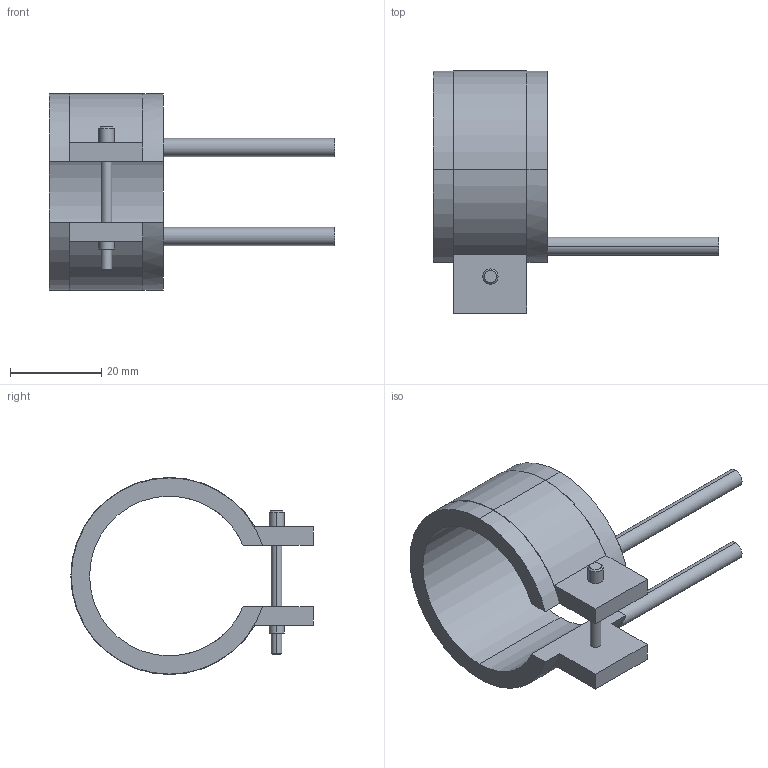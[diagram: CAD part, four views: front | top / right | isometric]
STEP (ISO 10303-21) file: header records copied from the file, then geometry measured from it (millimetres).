
FILE_DESCRIPTION(('CATIA V5 STEP Exchange'),'2;1');
FILE_NAME('C:\Users\Utente\Desktop\IO LAVORO\3D X SITO CF\X SITO\PLASTICA\RF2\14035025.stp','2021-03-31T11:38:41+00:00',('none'),('none'),'CATIA Version 5 Release 20 GA (IN-10)','CATIA V5 STEP AP203','none');
FILE_SCHEMA(('CONFIG_CONTROL_DESIGN'));
Length unit declared in the file: millimetre
Products named in the file (1): 14035025
Bounding box: 62.5 x 53.1 x 43.2 mm (x, y, z)
Volume: 13642.7 mm3; surface area: 8612.2 mm2
Topology: 1 solids, 1 shells, 45 faces, 116 edges, 76 vertices
Faces by surface type: cylinder 24, plane 17, cone 4
Entity records: 1412 total; most frequent: CARTESIAN_POINT 288, ORIENTED_EDGE 232, DIRECTION 195, EDGE_CURVE 116, AXIS2_PLACEMENT_3D 103, VERTEX_POINT 76, CIRCLE 61, VECTOR 52
